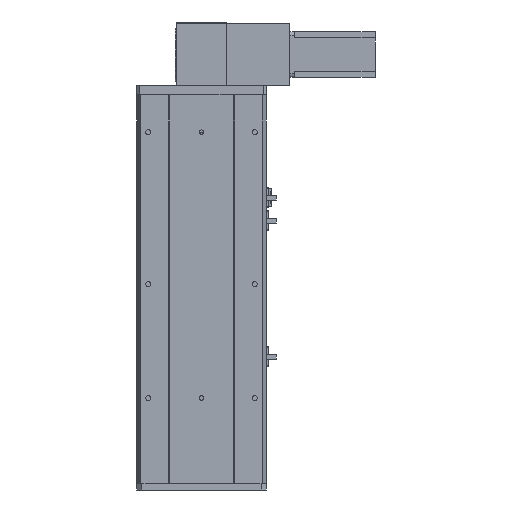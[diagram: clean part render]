
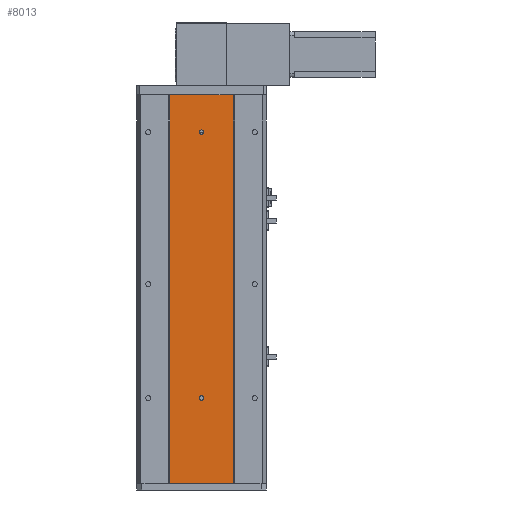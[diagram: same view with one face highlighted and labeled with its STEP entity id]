
A CAD part, front view. The second image highlights one B-rep face of the part: STEP entity #8013.
In plain terms, the highlighted planar face has unit normal (0, -1, 0).
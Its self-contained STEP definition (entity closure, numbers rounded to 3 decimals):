
#1264 = AXIS2_PLACEMENT_3D ( 'NONE', #12366, #27116, #14490 ) ;
#1694 = CARTESIAN_POINT ( 'NONE',  ( 126.916, 2.57, 0. ) ) ;
#2421 = VERTEX_POINT ( 'NONE', #17688 ) ;
#3066 = ORIENTED_EDGE ( 'NONE', *, *, #9656, .T. ) ;
#3502 = EDGE_LOOP ( 'NONE', ( #11542, #3066 ) ) ;
#3926 = CARTESIAN_POINT ( 'NONE',  ( 85., 2.57, 116. ) ) ;
#4638 = AXIS2_PLACEMENT_3D ( 'NONE', #12308, #12218, #12037 ) ;
#4679 = AXIS2_PLACEMENT_3D ( 'NONE', #10443, #10403, #10382 ) ;
#4944 = VECTOR ( 'NONE', #19975, 1000. ) ;
#5302 = CARTESIAN_POINT ( 'NONE',  ( 42.916, 2.57, 512. ) ) ;
#5473 = CIRCLE ( 'NONE', #23057, 3. ) ;
#5519 = CARTESIAN_POINT ( 'NONE',  ( 85., 2.57, 466. ) ) ;
#6162 = CARTESIAN_POINT ( 'NONE',  ( 42.916, 2.57, 0. ) ) ;
#6200 = DIRECTION ( 'NONE',  ( 0., 0., 1. ) ) ;
#7993 = EDGE_CURVE ( 'NONE', #14109, #2421, #27487, .T. ) ;
#8013 = ADVANCED_FACE ( 'NONE', ( #21329, #26848, #10681 ), #19642, .F. ) ;
#8433 = LINE ( 'NONE', #14685, #12749 ) ;
#8492 = DIRECTION ( 'NONE',  ( -1., 0., 0. ) ) ;
#8909 = EDGE_CURVE ( 'NONE', #9507, #19033, #26138, .T. ) ;
#9311 = VECTOR ( 'NONE', #6200, 1000. ) ;
#9507 = VERTEX_POINT ( 'NONE', #23185 ) ;
#9656 = EDGE_CURVE ( 'NONE', #23996, #19328, #22545, .T. ) ;
#10382 = DIRECTION ( 'NONE',  ( 0., 0., 1. ) ) ;
#10403 = DIRECTION ( 'NONE',  ( 0., 1., 0. ) ) ;
#10443 = CARTESIAN_POINT ( 'NONE',  ( 85., 2.57, 463. ) ) ;
#10605 = CARTESIAN_POINT ( 'NONE',  ( 85., 2.57, 110. ) ) ;
#10681 = FACE_OUTER_BOUND ( 'NONE', #25527, .T. ) ;
#10693 = EDGE_CURVE ( 'NONE', #13595, #19852, #5473, .T. ) ;
#11072 = ORIENTED_EDGE ( 'NONE', *, *, #8909, .F. ) ;
#11542 = ORIENTED_EDGE ( 'NONE', *, *, #11780, .T. ) ;
#11780 = EDGE_CURVE ( 'NONE', #19328, #23996, #21764, .T. ) ;
#11868 = ORIENTED_EDGE ( 'NONE', *, *, #20944, .F. ) ;
#12037 = DIRECTION ( 'NONE',  ( 0., 0., 1. ) ) ;
#12218 = DIRECTION ( 'NONE',  ( 0., 1., 0. ) ) ;
#12308 = CARTESIAN_POINT ( 'NONE',  ( 85., 2.57, 463. ) ) ;
#12366 = CARTESIAN_POINT ( 'NONE',  ( 85., 2.57, 113. ) ) ;
#12749 = VECTOR ( 'NONE', #27285, 1000. ) ;
#13540 = ORIENTED_EDGE ( 'NONE', *, *, #7993, .T. ) ;
#13595 = VERTEX_POINT ( 'NONE', #3926 ) ;
#14076 = EDGE_CURVE ( 'NONE', #19852, #13595, #25959, .T. ) ;
#14109 = VERTEX_POINT ( 'NONE', #1694 ) ;
#14135 = EDGE_CURVE ( 'NONE', #2421, #19033, #8433, .T. ) ;
#14490 = DIRECTION ( 'NONE',  ( 0., 0., 1. ) ) ;
#14685 = CARTESIAN_POINT ( 'NONE',  ( 42.916, 2.57, 512. ) ) ;
#17688 = CARTESIAN_POINT ( 'NONE',  ( 126.916, 2.57, 512. ) ) ;
#18606 = ORIENTED_EDGE ( 'NONE', *, *, #14076, .T. ) ;
#19033 = VERTEX_POINT ( 'NONE', #5302 ) ;
#19077 = CARTESIAN_POINT ( 'NONE',  ( 42.916, 2.57, 0. ) ) ;
#19328 = VERTEX_POINT ( 'NONE', #25305 ) ;
#19562 = DIRECTION ( 'NONE',  ( 0., 0., 1. ) ) ;
#19636 = DIRECTION ( 'NONE',  ( 0., 1., 0. ) ) ;
#19642 = PLANE ( 'NONE',  #25050 ) ;
#19732 = CARTESIAN_POINT ( 'NONE',  ( 42.916, 2.57, 0. ) ) ;
#19852 = VERTEX_POINT ( 'NONE', #10605 ) ;
#19975 = DIRECTION ( 'NONE',  ( 0., 0., 1. ) ) ;
#20056 = CARTESIAN_POINT ( 'NONE',  ( 126.916, 2.57, 0. ) ) ;
#20944 = EDGE_CURVE ( 'NONE', #14109, #9507, #22658, .T. ) ;
#21329 = FACE_BOUND ( 'NONE', #3502, .T. ) ;
#21764 = CIRCLE ( 'NONE', #4679, 3. ) ;
#22001 = VECTOR ( 'NONE', #8492, 1000. ) ;
#22545 = CIRCLE ( 'NONE', #4638, 3. ) ;
#22658 = LINE ( 'NONE', #19077, #22001 ) ;
#23057 = AXIS2_PLACEMENT_3D ( 'NONE', #25630, #25605, #25549 ) ;
#23185 = CARTESIAN_POINT ( 'NONE',  ( 42.916, 2.57, 0. ) ) ;
#23996 = VERTEX_POINT ( 'NONE', #5519 ) ;
#25050 = AXIS2_PLACEMENT_3D ( 'NONE', #19732, #19636, #19562 ) ;
#25305 = CARTESIAN_POINT ( 'NONE',  ( 85., 2.57, 460. ) ) ;
#25527 = EDGE_LOOP ( 'NONE', ( #25544, #11072, #11868, #13540 ) ) ;
#25544 = ORIENTED_EDGE ( 'NONE', *, *, #14135, .T. ) ;
#25549 = DIRECTION ( 'NONE',  ( 0., 0., 1. ) ) ;
#25605 = DIRECTION ( 'NONE',  ( 0., 1., 0. ) ) ;
#25630 = CARTESIAN_POINT ( 'NONE',  ( 85., 2.57, 113. ) ) ;
#25731 = ORIENTED_EDGE ( 'NONE', *, *, #10693, .T. ) ;
#25959 = CIRCLE ( 'NONE', #1264, 3. ) ;
#26138 = LINE ( 'NONE', #6162, #9311 ) ;
#26848 = FACE_BOUND ( 'NONE', #27351, .T. ) ;
#27116 = DIRECTION ( 'NONE',  ( 0., 1., 0. ) ) ;
#27285 = DIRECTION ( 'NONE',  ( -1., 0., 0. ) ) ;
#27351 = EDGE_LOOP ( 'NONE', ( #18606, #25731 ) ) ;
#27487 = LINE ( 'NONE', #20056, #4944 ) ;
